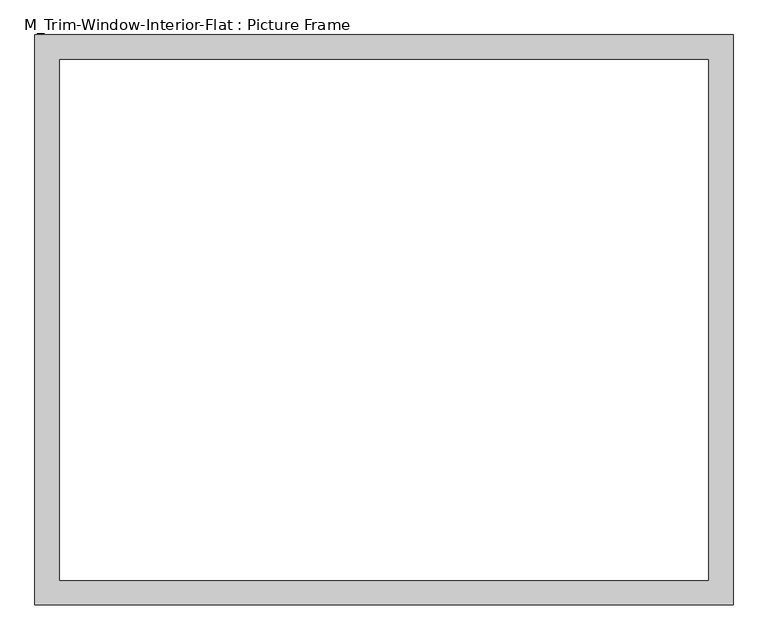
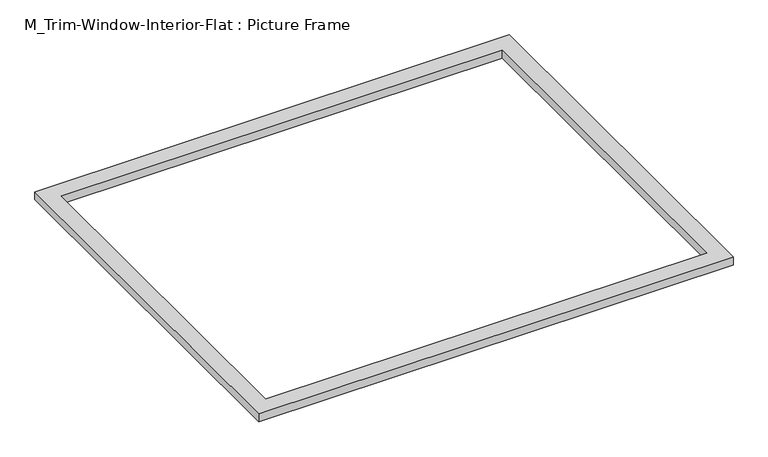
"""IFC4 building model written with IfcOpenShell, lengths in millimetres: proxy geometry, M_Trim-Window-Interior-Flat : Picture Frame."""

from ifc_helpers import new_model, si_unit, origin, origin_with_axes, place, context, project, spatial, polyline, outline, extrude, source, transform, mapped, element, save


def m_trim_window_interior_flat_picture_frame_d5faf058(model_context):
    return source(origin(), model_context, "Body", "SweptSolid", [
        extrude(outline(polyline([(847.3, 47.3), (847.3, -1337.3), (-847.3, -1337.3), (-847.3, 47.3), (847.3, 47.3)]), holes=[polyline([(787.3, -12.7), (-787.3, -12.7), (-787.3, -1277.3), (787.3, -1277.3), (787.3, -12.7)])]), origin_with_axes(), (0.0, 0.0, 1.0), 30.0),
    ])


if __name__ == "__main__":
    model = new_model("IFC4")
    model_context = context("Model", 3, world=origin())
    ifc_project = project(units=[si_unit("LENGTHUNIT", "METRE", prefix="MILLI")], contexts=[model_context])
    site = spatial("IfcSite", under=ifc_project)
    building = spatial("IfcBuilding", under=site)
    placement = place(None, origin())
    m_trim_window_interior_flat_picture_frame_shape = m_trim_window_interior_flat_picture_frame_d5faf058(model_context)
    element("IfcBuildingElementProxy", 1, Name="M_Trim-Window-Interior-Flat : Picture Frame", ObjectType="M_Trim-Window-Interior-Flat : Picture Frame", at=placement, inside=building, context=model_context, shape_type="MappedRepresentation", body=[
        mapped(m_trim_window_interior_flat_picture_frame_shape, transform((0.0, 0.0, 0.0), x_axis=(1.0, 0.0, 0.0), y_axis=(0.0, 1.0, 0.0), z_axis=(0.0, 0.0, 1.0))),
    ])
    save(model, "model.ifc")
